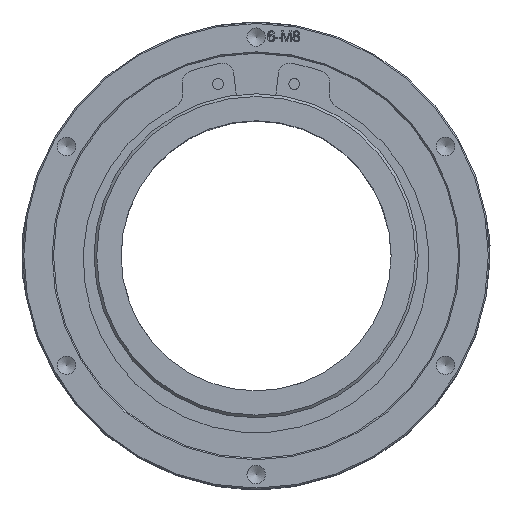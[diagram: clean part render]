
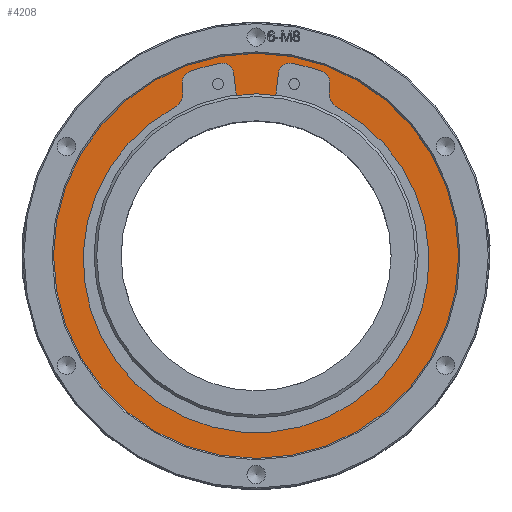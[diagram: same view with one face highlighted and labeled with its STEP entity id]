
A CAD part, top view. The second image highlights one B-rep face of the part: STEP entity #4208.
In plain terms, the highlighted planar face has unit normal (0, 0, 1).
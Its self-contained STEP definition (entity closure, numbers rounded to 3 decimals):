
#273=FACE_BOUND('',#7561,.T.);
#274=FACE_BOUND('',#7562,.T.);
#613=CIRCLE('',#27456,2.);
#614=CIRCLE('',#27457,58.);
#615=CIRCLE('',#27458,2.);
#616=CIRCLE('',#27459,4.);
#617=CIRCLE('',#27460,72.5);
#618=CIRCLE('',#27461,4.);
#619=CIRCLE('',#27462,6.);
#620=CIRCLE('',#27463,64.);
#621=CIRCLE('',#27464,6.);
#622=CIRCLE('',#27465,4.);
#623=CIRCLE('',#27466,72.5);
#624=CIRCLE('',#27467,4.);
#625=CIRCLE('',#27468,75.);
#1918=LINE('',#47790,#2908);
#1919=LINE('',#47799,#2909);
#1920=LINE('',#47807,#2910);
#1921=LINE('',#47815,#2911);
#2908=VECTOR('',#29720,1.);
#2909=VECTOR('',#29727,1.);
#2910=VECTOR('',#29734,1.);
#2911=VECTOR('',#29741,1.);
#4208=ADVANCED_FACE('',(#273,#274),#5194,.T.);
#5194=PLANE('',#27469);
#7561=EDGE_LOOP('',(#12088,#12089,#12090,#12091,#12092,#12093,#12094,#12095,
#12096,#12097,#12098,#12099,#12100,#12101,#12102,#12103));
#7562=EDGE_LOOP('',(#12104));
#12088=ORIENTED_EDGE('',*,*,#21667,.F.);
#12089=ORIENTED_EDGE('',*,*,#21668,.F.);
#12090=ORIENTED_EDGE('',*,*,#21669,.F.);
#12091=ORIENTED_EDGE('',*,*,#21670,.F.);
#12092=ORIENTED_EDGE('',*,*,#21671,.F.);
#12093=ORIENTED_EDGE('',*,*,#21672,.F.);
#12094=ORIENTED_EDGE('',*,*,#21673,.F.);
#12095=ORIENTED_EDGE('',*,*,#21674,.F.);
#12096=ORIENTED_EDGE('',*,*,#21675,.F.);
#12097=ORIENTED_EDGE('',*,*,#21676,.F.);
#12098=ORIENTED_EDGE('',*,*,#21677,.F.);
#12099=ORIENTED_EDGE('',*,*,#21678,.F.);
#12100=ORIENTED_EDGE('',*,*,#21679,.F.);
#12101=ORIENTED_EDGE('',*,*,#21680,.F.);
#12102=ORIENTED_EDGE('',*,*,#21681,.F.);
#12103=ORIENTED_EDGE('',*,*,#21682,.F.);
#12104=ORIENTED_EDGE('',*,*,#21683,.F.);
#18193=VERTEX_POINT('',#47791);
#18194=VERTEX_POINT('',#47792);
#18195=VERTEX_POINT('',#47794);
#18196=VERTEX_POINT('',#47796);
#18197=VERTEX_POINT('',#47798);
#18198=VERTEX_POINT('',#47800);
#18199=VERTEX_POINT('',#47802);
#18200=VERTEX_POINT('',#47804);
#18201=VERTEX_POINT('',#47806);
#18202=VERTEX_POINT('',#47808);
#18203=VERTEX_POINT('',#47810);
#18204=VERTEX_POINT('',#47812);
#18205=VERTEX_POINT('',#47814);
#18206=VERTEX_POINT('',#47816);
#18207=VERTEX_POINT('',#47818);
#18208=VERTEX_POINT('',#47820);
#18209=VERTEX_POINT('',#47823);
#21667=EDGE_CURVE('',#18193,#18194,#1918,.T.);
#21668=EDGE_CURVE('',#18195,#18193,#613,.T.);
#21669=EDGE_CURVE('',#18196,#18195,#614,.T.);
#21670=EDGE_CURVE('',#18197,#18196,#615,.T.);
#21671=EDGE_CURVE('',#18198,#18197,#1919,.T.);
#21672=EDGE_CURVE('',#18199,#18198,#616,.T.);
#21673=EDGE_CURVE('',#18200,#18199,#617,.T.);
#21674=EDGE_CURVE('',#18201,#18200,#618,.T.);
#21675=EDGE_CURVE('',#18202,#18201,#1920,.T.);
#21676=EDGE_CURVE('',#18203,#18202,#619,.T.);
#21677=EDGE_CURVE('',#18204,#18203,#620,.T.);
#21678=EDGE_CURVE('',#18205,#18204,#621,.T.);
#21679=EDGE_CURVE('',#18206,#18205,#1921,.T.);
#21680=EDGE_CURVE('',#18207,#18206,#622,.T.);
#21681=EDGE_CURVE('',#18208,#18207,#623,.T.);
#21682=EDGE_CURVE('',#18194,#18208,#624,.T.);
#21683=EDGE_CURVE('',#18209,#18209,#625,.T.);
#27456=AXIS2_PLACEMENT_3D('',#47793,#29721,#29722);
#27457=AXIS2_PLACEMENT_3D('',#47795,#29723,#29724);
#27458=AXIS2_PLACEMENT_3D('',#47797,#29725,#29726);
#27459=AXIS2_PLACEMENT_3D('',#47801,#29728,#29729);
#27460=AXIS2_PLACEMENT_3D('',#47803,#29730,#29731);
#27461=AXIS2_PLACEMENT_3D('',#47805,#29732,#29733);
#27462=AXIS2_PLACEMENT_3D('',#47809,#29735,#29736);
#27463=AXIS2_PLACEMENT_3D('',#47811,#29737,#29738);
#27464=AXIS2_PLACEMENT_3D('',#47813,#29739,#29740);
#27465=AXIS2_PLACEMENT_3D('',#47817,#29742,#29743);
#27466=AXIS2_PLACEMENT_3D('',#47819,#29744,#29745);
#27467=AXIS2_PLACEMENT_3D('',#47821,#29746,#29747);
#27468=AXIS2_PLACEMENT_3D('',#47822,#29748,#29749);
#27469=AXIS2_PLACEMENT_3D('',#47824,#29750,#29751);
#29720=DIRECTION('',(-0.122,0.993,0.));
#29721=DIRECTION('',(0.,0.,1.));
#29722=DIRECTION('',(1.,0.,0.));
#29723=DIRECTION('',(0.,0.,1.));
#29724=DIRECTION('',(1.,0.,0.));
#29725=DIRECTION('',(0.,0.,1.));
#29726=DIRECTION('',(1.,0.,0.));
#29727=DIRECTION('',(-0.122,-0.993,0.));
#29728=DIRECTION('',(0.,0.,1.));
#29729=DIRECTION('',(1.,0.,0.));
#29730=DIRECTION('',(0.,0.,1.));
#29731=DIRECTION('',(1.,0.,0.));
#29732=DIRECTION('',(0.,0.,1.));
#29733=DIRECTION('',(1.,0.,0.));
#29734=DIRECTION('',(0.035,0.999,0.));
#29735=DIRECTION('',(0.,0.,-1.));
#29736=DIRECTION('',(1.,0.,0.));
#29737=DIRECTION('',(0.,0.,1.));
#29738=DIRECTION('',(1.,0.,0.));
#29739=DIRECTION('',(0.,0.,-1.));
#29740=DIRECTION('',(1.,0.,0.));
#29741=DIRECTION('',(0.035,-0.999,0.));
#29742=DIRECTION('',(0.,0.,1.));
#29743=DIRECTION('',(1.,0.,0.));
#29744=DIRECTION('',(0.,0.,1.));
#29745=DIRECTION('',(1.,0.,0.));
#29746=DIRECTION('',(0.,0.,1.));
#29747=DIRECTION('',(1.,0.,0.));
#29748=DIRECTION('',(0.,0.,-1.));
#29749=DIRECTION('',(1.,0.,0.));
#29750=DIRECTION('',(0.,0.,1.));
#29751=DIRECTION('',(1.,0.,0.));
#47790=CARTESIAN_POINT('',(-7.308,59.52,97.));
#47791=CARTESIAN_POINT('',(-7.308,59.52,97.));
#47792=CARTESIAN_POINT('',(-8.334,67.873,97.));
#47793=CARTESIAN_POINT('',(-9.293,59.276,97.));
#47794=CARTESIAN_POINT('',(-8.983,57.3,97.));
#47795=CARTESIAN_POINT('',(0.,0.,97.));
#47796=CARTESIAN_POINT('',(8.983,57.3,97.));
#47797=CARTESIAN_POINT('',(9.293,59.276,97.));
#47798=CARTESIAN_POINT('',(7.308,59.52,97.));
#47799=CARTESIAN_POINT('',(8.334,67.873,97.));
#47800=CARTESIAN_POINT('',(8.334,67.873,97.));
#47801=CARTESIAN_POINT('',(12.304,67.386,97.));
#47802=CARTESIAN_POINT('',(13.022,71.321,97.));
#47803=CARTESIAN_POINT('',(0.,0.,97.));
#47804=CARTESIAN_POINT('',(24.621,68.191,97.));
#47805=CARTESIAN_POINT('',(23.263,64.429,97.));
#47806=CARTESIAN_POINT('',(27.26,64.289,97.));
#47807=CARTESIAN_POINT('',(27.124,60.378,97.));
#47808=CARTESIAN_POINT('',(27.124,60.378,97.));
#47809=CARTESIAN_POINT('',(33.12,60.169,97.));
#47810=CARTESIAN_POINT('',(30.281,54.883,97.));
#47811=CARTESIAN_POINT('',(0.,-1.5,97.));
#47812=CARTESIAN_POINT('',(-30.281,54.883,97.));
#47813=CARTESIAN_POINT('',(-33.12,60.169,97.));
#47814=CARTESIAN_POINT('',(-27.124,60.378,97.));
#47815=CARTESIAN_POINT('',(-27.26,64.289,97.));
#47816=CARTESIAN_POINT('',(-27.26,64.289,97.));
#47817=CARTESIAN_POINT('',(-23.263,64.429,97.));
#47818=CARTESIAN_POINT('',(-24.621,68.191,97.));
#47819=CARTESIAN_POINT('',(0.,0.,97.));
#47820=CARTESIAN_POINT('',(-13.022,71.321,97.));
#47821=CARTESIAN_POINT('',(-12.304,67.386,97.));
#47822=CARTESIAN_POINT('',(0.,0.,97.));
#47823=CARTESIAN_POINT('',(75.,0.,97.));
#47824=CARTESIAN_POINT('',(0.,0.,97.));
